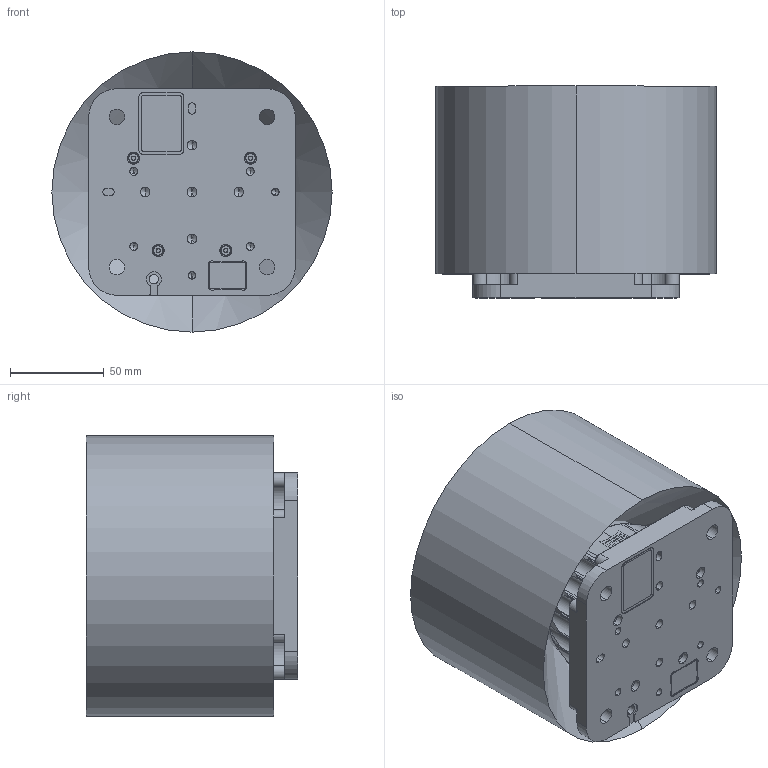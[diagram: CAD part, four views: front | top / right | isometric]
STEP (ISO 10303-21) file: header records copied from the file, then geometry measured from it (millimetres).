
FILE_DESCRIPTION (( 'STEP AP214' ), '1' );
FILE_NAME ('700-108702-Rev 8.0 OS Exterior Spec-OS0 BH_04-30-2026A.STEP', '2026-04-30T19:18:50', ( '' ), ( '' ), 'SwSTEP 2.0', 'SolidWorks 2022', '' );
FILE_SCHEMA (( 'AUTOMOTIVE_DESIGN' ));
Length unit declared in the file: millimetre
Products named in the file (1): 700-108702-Rev 8.0 OS Exterior Spec-OS0 BH_04-30-2026A
Bounding box: 149.29 x 112.74 x 149.29 mm (x, y, z)
Volume: 1412732.1 mm3; surface area: 183110.6 mm2
Topology: 15 solids, 15 shells, 1883 faces, 5188 edges, 3250 vertices
Faces by surface type: cylinder 984, cone 342, plane 270, bspline 267, torus 20
Entity records: 117564 total; most frequent: CARTESIAN_POINT 54094, ORIENTED_EDGE 10184, DIRECTION 7710, EDGE_CURVE 5092, VERTEX_POINT 3250, AXIS2_PLACEMENT_3D 3050, EDGE_LOOP 1990, UNCERTAINTY_MEASURE_WITH_UNIT 1900
